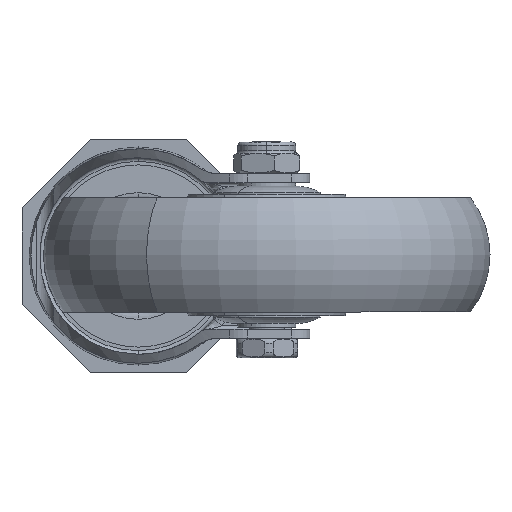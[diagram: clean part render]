
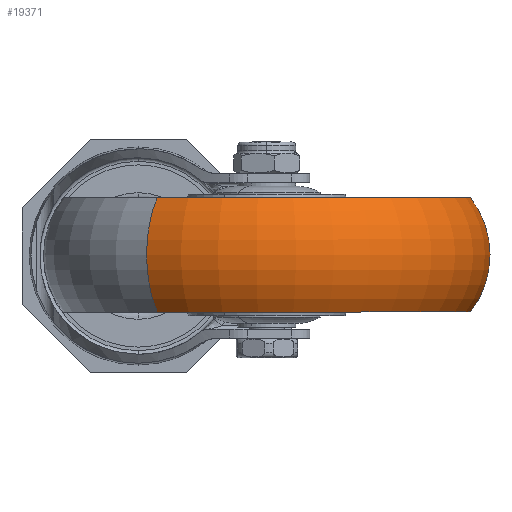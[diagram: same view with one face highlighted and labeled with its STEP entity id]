
A CAD part, front view. The second image highlights one B-rep face of the part: STEP entity #19371.
In plain terms, the highlighted toroidal (fillet/blend) face has major radius 36.477 mm and minor radius 26.023 mm.
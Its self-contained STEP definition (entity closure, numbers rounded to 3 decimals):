
#3825 = CARTESIAN_POINT ( 'NONE',  ( 0., 16., -57. ) ) ;
#3826 = DIRECTION ( 'NONE',  ( 0., 0., -1. ) ) ;
#3827 = DIRECTION ( 'NONE',  ( 0., -1., 0. ) ) ;
#3828 = CARTESIAN_POINT ( 'NONE',  ( 0., 16., 0. ) ) ;
#3829 = AXIS2_PLACEMENT_3D ( 'NONE', #3828, #3827, #3826 ) ;
#3830 = DIRECTION ( 'NONE',  ( 0., 0., -1. ) ) ;
#3831 = DIRECTION ( 'NONE',  ( 0., -1., 0. ) ) ;
#3832 = CIRCLE ( 'NONE', #3829, 57. ) ;
#3833 = CARTESIAN_POINT ( 'NONE',  ( 0., 0., 0. ) ) ;
#3834 = AXIS2_PLACEMENT_3D ( 'NONE', #3833, #3831, #3830 ) ;
#3835 = TOROIDAL_SURFACE ( 'NONE', #3834, 36.477, 26.023 ) ;
#3836 = FACE_OUTER_BOUND ( 'NONE', #19372, .T. ) ;
#4079 = CARTESIAN_POINT ( 'NONE',  ( 0., -16., 0. ) ) ;
#4080 = AXIS2_PLACEMENT_3D ( 'NONE', #4079, #4207, #4206 ) ;
#4081 = CIRCLE ( 'NONE', #4080, 57. ) ;
#4082 = CARTESIAN_POINT ( 'NONE',  ( 0., -16., 57. ) ) ;
#4083 = DIRECTION ( 'NONE',  ( 0., 0., -1. ) ) ;
#4084 = DIRECTION ( 'NONE',  ( 1., 0., 0. ) ) ;
#4085 = CARTESIAN_POINT ( 'NONE',  ( 0., 0., 36.477 ) ) ;
#4086 = AXIS2_PLACEMENT_3D ( 'NONE', #4085, #4084, #4083 ) ;
#4087 = CIRCLE ( 'NONE', #4086, 26.023 ) ;
#4088 = CARTESIAN_POINT ( 'NONE',  ( 0., 16., 57. ) ) ;
#4200 = DIRECTION ( 'NONE',  ( 0., 0., 1. ) ) ;
#4201 = DIRECTION ( 'NONE',  ( -1., 0., 0. ) ) ;
#4202 = CARTESIAN_POINT ( 'NONE',  ( 0., 0., -36.477 ) ) ;
#4203 = AXIS2_PLACEMENT_3D ( 'NONE', #4202, #4201, #4200 ) ;
#4204 = CIRCLE ( 'NONE', #4203, 26.023 ) ;
#4205 = CARTESIAN_POINT ( 'NONE',  ( 0., -16., -57. ) ) ;
#4206 = DIRECTION ( 'NONE',  ( 0., 0., -1. ) ) ;
#4207 = DIRECTION ( 'NONE',  ( 0., -1., 0. ) ) ;
#19371 = ADVANCED_FACE ( 'NONE', ( #3836 ), #3835, .T. ) ;
#19372 = EDGE_LOOP ( 'NONE', ( #19373, #19517, #19520, #19523 ) ) ;
#19373 = ORIENTED_EDGE ( 'NONE', *, *, #19374, .T. ) ;
#19374 = EDGE_CURVE ( 'NONE', #19375, #19516, #3832, .T. ) ;
#19375 = VERTEX_POINT ( 'NONE', #3825 ) ;
#19516 = VERTEX_POINT ( 'NONE', #4088 ) ;
#19517 = ORIENTED_EDGE ( 'NONE', *, *, #19518, .T. ) ;
#19518 = EDGE_CURVE ( 'NONE', #19516, #19519, #4087, .T. ) ;
#19519 = VERTEX_POINT ( 'NONE', #4082 ) ;
#19520 = ORIENTED_EDGE ( 'NONE', *, *, #19521, .F. ) ;
#19521 = EDGE_CURVE ( 'NONE', #19522, #19519, #4081, .T. ) ;
#19522 = VERTEX_POINT ( 'NONE', #4205 ) ;
#19523 = ORIENTED_EDGE ( 'NONE', *, *, #19524, .F. ) ;
#19524 = EDGE_CURVE ( 'NONE', #19375, #19522, #4204, .T. ) ;
